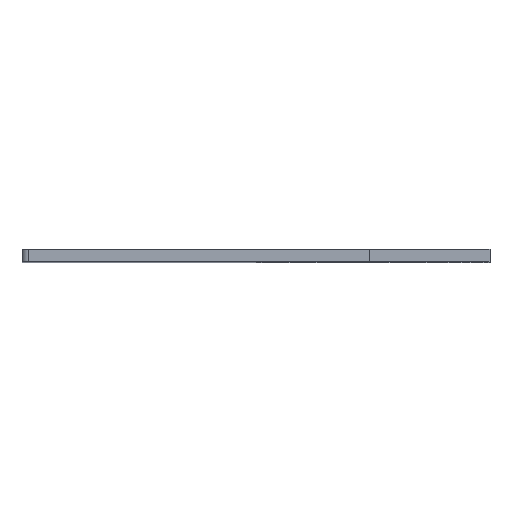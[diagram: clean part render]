
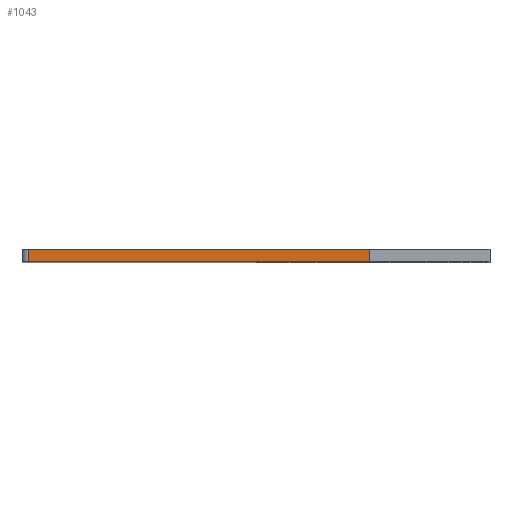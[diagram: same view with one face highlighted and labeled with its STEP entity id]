
A CAD part, top view. The second image highlights one B-rep face of the part: STEP entity #1043.
In plain terms, the highlighted planar face has unit normal (0, 0, 1).
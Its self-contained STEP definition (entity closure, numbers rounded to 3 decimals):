
#50 = PLANE('',#51);
#51 = AXIS2_PLACEMENT_3D('',#52,#53,#54);
#52 = CARTESIAN_POINT('',(37.902,0.,48.5));
#53 = DIRECTION('',(0.,1.,0.));
#54 = DIRECTION('',(0.,-0.,1.));
#132 = VERTEX_POINT('',#133);
#133 = CARTESIAN_POINT('',(1.,0.,97.));
#148 = CYLINDRICAL_SURFACE('',#149,1.);
#149 = AXIS2_PLACEMENT_3D('',#150,#151,#152);
#150 = CARTESIAN_POINT('',(1.,0.,96.));
#151 = DIRECTION('',(0.,-1.,0.));
#152 = DIRECTION('',(-1.,0.,0.));
#160 = EDGE_CURVE('',#132,#161,#163,.T.);
#161 = VERTEX_POINT('',#162);
#162 = CARTESIAN_POINT('',(55.,0.,97.));
#163 = SURFACE_CURVE('',#164,(#168,#175),.PCURVE_S1.);
#164 = LINE('',#165,#166);
#165 = CARTESIAN_POINT('',(0.,0.,97.));
#166 = VECTOR('',#167,1.);
#167 = DIRECTION('',(1.,0.,0.));
#168 = PCURVE('',#50,#169);
#169 = DEFINITIONAL_REPRESENTATION('',(#170),#174);
#170 = LINE('',#171,#172);
#171 = CARTESIAN_POINT('',(48.5,-37.902));
#172 = VECTOR('',#173,1.);
#173 = DIRECTION('',(0.,1.));
#174 = ( GEOMETRIC_REPRESENTATION_CONTEXT(2) 
PARAMETRIC_REPRESENTATION_CONTEXT() REPRESENTATION_CONTEXT('2D SPACE',''
  ) );
#175 = PCURVE('',#176,#181);
#176 = PLANE('',#177);
#177 = AXIS2_PLACEMENT_3D('',#178,#179,#180);
#178 = CARTESIAN_POINT('',(0.,0.,97.));
#179 = DIRECTION('',(-0.,0.,1.));
#180 = DIRECTION('',(1.,0.,0.));
#181 = DEFINITIONAL_REPRESENTATION('',(#182),#186);
#182 = LINE('',#183,#184);
#183 = CARTESIAN_POINT('',(0.,0.));
#184 = VECTOR('',#185,1.);
#185 = DIRECTION('',(1.,0.));
#186 = ( GEOMETRIC_REPRESENTATION_CONTEXT(2) 
PARAMETRIC_REPRESENTATION_CONTEXT() REPRESENTATION_CONTEXT('2D SPACE',''
  ) );
#204 = PLANE('',#205);
#205 = AXIS2_PLACEMENT_3D('',#206,#207,#208);
#206 = CARTESIAN_POINT('',(55.,0.,97.));
#207 = DIRECTION('',(-1.,0.,0.));
#208 = DIRECTION('',(0.,0.,1.));
#715 = PLANE('',#716);
#716 = AXIS2_PLACEMENT_3D('',#717,#718,#719);
#717 = CARTESIAN_POINT('',(37.902,-2.,48.5));
#718 = DIRECTION('',(0.,1.,0.));
#719 = DIRECTION('',(0.,-0.,1.));
#949 = EDGE_CURVE('',#132,#950,#952,.T.);
#950 = VERTEX_POINT('',#951);
#951 = CARTESIAN_POINT('',(1.,-2.,97.));
#952 = SURFACE_CURVE('',#953,(#957,#964),.PCURVE_S1.);
#953 = LINE('',#954,#955);
#954 = CARTESIAN_POINT('',(1.,0.,97.));
#955 = VECTOR('',#956,1.);
#956 = DIRECTION('',(0.,-1.,0.));
#957 = PCURVE('',#148,#958);
#958 = DEFINITIONAL_REPRESENTATION('',(#959),#963);
#959 = LINE('',#960,#961);
#960 = CARTESIAN_POINT('',(-1.571,0.));
#961 = VECTOR('',#962,1.);
#962 = DIRECTION('',(-0.,1.));
#963 = ( GEOMETRIC_REPRESENTATION_CONTEXT(2) 
PARAMETRIC_REPRESENTATION_CONTEXT() REPRESENTATION_CONTEXT('2D SPACE',''
  ) );
#964 = PCURVE('',#176,#965);
#965 = DEFINITIONAL_REPRESENTATION('',(#966),#970);
#966 = LINE('',#967,#968);
#967 = CARTESIAN_POINT('',(1.,0.));
#968 = VECTOR('',#969,1.);
#969 = DIRECTION('',(0.,-1.));
#970 = ( GEOMETRIC_REPRESENTATION_CONTEXT(2) 
PARAMETRIC_REPRESENTATION_CONTEXT() REPRESENTATION_CONTEXT('2D SPACE',''
  ) );
#1043 = ADVANCED_FACE('',(#1044),#176,.T.);
#1044 = FACE_BOUND('',#1045,.T.);
#1045 = EDGE_LOOP('',(#1046,#1047,#1048,#1071));
#1046 = ORIENTED_EDGE('',*,*,#160,.F.);
#1047 = ORIENTED_EDGE('',*,*,#949,.T.);
#1048 = ORIENTED_EDGE('',*,*,#1049,.T.);
#1049 = EDGE_CURVE('',#950,#1050,#1052,.T.);
#1050 = VERTEX_POINT('',#1051);
#1051 = CARTESIAN_POINT('',(55.,-2.,97.));
#1052 = SURFACE_CURVE('',#1053,(#1057,#1064),.PCURVE_S1.);
#1053 = LINE('',#1054,#1055);
#1054 = CARTESIAN_POINT('',(0.,-2.,97.));
#1055 = VECTOR('',#1056,1.);
#1056 = DIRECTION('',(1.,0.,0.));
#1057 = PCURVE('',#176,#1058);
#1058 = DEFINITIONAL_REPRESENTATION('',(#1059),#1063);
#1059 = LINE('',#1060,#1061);
#1060 = CARTESIAN_POINT('',(0.,-2.));
#1061 = VECTOR('',#1062,1.);
#1062 = DIRECTION('',(1.,0.));
#1063 = ( GEOMETRIC_REPRESENTATION_CONTEXT(2) 
PARAMETRIC_REPRESENTATION_CONTEXT() REPRESENTATION_CONTEXT('2D SPACE',''
  ) );
#1064 = PCURVE('',#715,#1065);
#1065 = DEFINITIONAL_REPRESENTATION('',(#1066),#1070);
#1066 = LINE('',#1067,#1068);
#1067 = CARTESIAN_POINT('',(48.5,-37.902));
#1068 = VECTOR('',#1069,1.);
#1069 = DIRECTION('',(0.,1.));
#1070 = ( GEOMETRIC_REPRESENTATION_CONTEXT(2) 
PARAMETRIC_REPRESENTATION_CONTEXT() REPRESENTATION_CONTEXT('2D SPACE',''
  ) );
#1071 = ORIENTED_EDGE('',*,*,#1072,.F.);
#1072 = EDGE_CURVE('',#161,#1050,#1073,.T.);
#1073 = SURFACE_CURVE('',#1074,(#1078,#1085),.PCURVE_S1.);
#1074 = LINE('',#1075,#1076);
#1075 = CARTESIAN_POINT('',(55.,0.,97.));
#1076 = VECTOR('',#1077,1.);
#1077 = DIRECTION('',(0.,-1.,0.));
#1078 = PCURVE('',#176,#1079);
#1079 = DEFINITIONAL_REPRESENTATION('',(#1080),#1084);
#1080 = LINE('',#1081,#1082);
#1081 = CARTESIAN_POINT('',(55.,0.));
#1082 = VECTOR('',#1083,1.);
#1083 = DIRECTION('',(0.,-1.));
#1084 = ( GEOMETRIC_REPRESENTATION_CONTEXT(2) 
PARAMETRIC_REPRESENTATION_CONTEXT() REPRESENTATION_CONTEXT('2D SPACE',''
  ) );
#1085 = PCURVE('',#204,#1086);
#1086 = DEFINITIONAL_REPRESENTATION('',(#1087),#1091);
#1087 = LINE('',#1088,#1089);
#1088 = CARTESIAN_POINT('',(0.,0.));
#1089 = VECTOR('',#1090,1.);
#1090 = DIRECTION('',(0.,-1.));
#1091 = ( GEOMETRIC_REPRESENTATION_CONTEXT(2) 
PARAMETRIC_REPRESENTATION_CONTEXT() REPRESENTATION_CONTEXT('2D SPACE',''
  ) );
